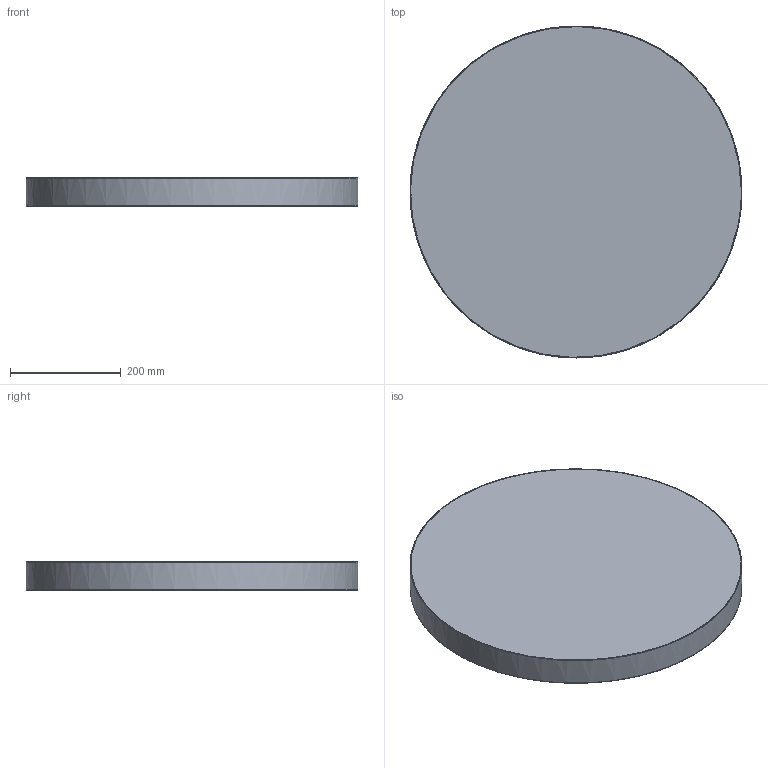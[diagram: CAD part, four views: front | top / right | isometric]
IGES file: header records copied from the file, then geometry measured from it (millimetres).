
Global section: file name: C:\Users\EQUIPO\Desktop\COLECCIONES ACB MODELADAS 3D OK\LONDON\london-3760-60-led (IGES).igs; native system: Rhinoceros ( Oct  8 2013 ); preprocessor: Trout Lake IGES 012 Oct  8 2013; date: 190207.115010; units: millimetre
Bounding box: 599.97 x 599.99 x 50.76 mm (x, y, z)
Surface area: 1370917.2 mm2 (no closed solid volume)
Topology: 0 solids, 0 shells, 12 faces, 105 edges, 101 vertices
Faces by surface type: bspline 12
